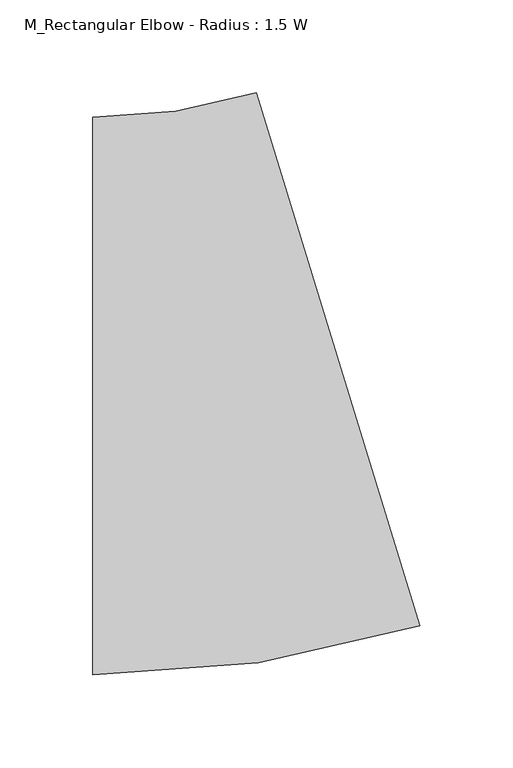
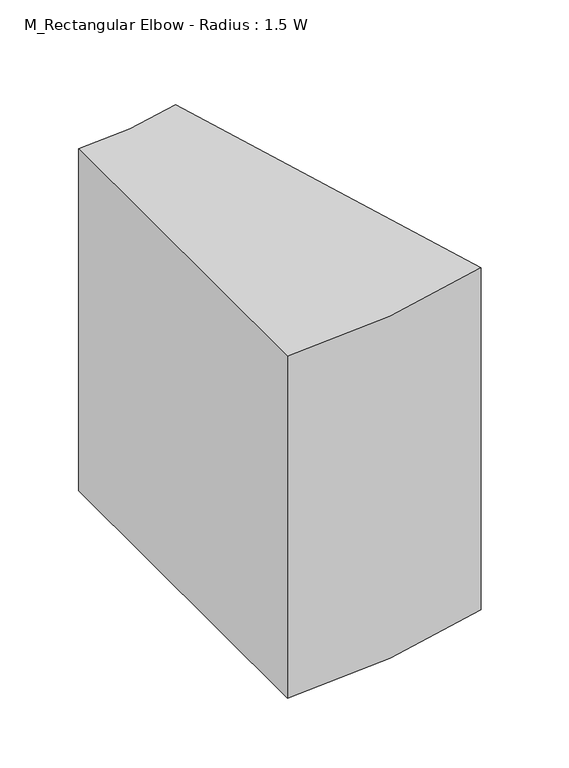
"""IFC4 building model written with IfcOpenShell, lengths in millimetres: duct fitting geometry, M_Rectangular Elbow - Radius : 1.5 W."""

import ifcopenshell
import ifcopenshell.guid

model = None  # the IFC model being written
_history = None  # IfcOwnerHistory: only IFC2X3 demands one
_inside = {}  # id of a spatial element -> (the spatial element, [elements in it])
_under = {}  # id of a project, library or spatial element -> (it, [spatial elements below it])
_declared = {}  # id of a project -> (the project, [libraries it declares])
_typed = {}  # id of a type object -> (the type object, [elements of that type])
_made_of = {}  # id of a material, layer set ... -> (it, [elements and type objects made of it])


def new_model(schema):
    """Start an empty IFC model of exactly this schema.

    Asked for "IFC4X3", IfcOpenShell would pick the latest addendum, in which some entities
    have other attributes; the version numbers below select the first issue.
    IFC2X3 requires an IfcOwnerHistory on every rooted entity: one is made here for all.
    """
    global model, _history
    if schema == "IFC4X3":
        model = ifcopenshell.file(schema_version=(4, 3, 0, 0))
    else:
        model = ifcopenshell.file(schema=schema)
    _inside.clear()
    _under.clear()
    _declared.clear()
    _typed.clear()
    _made_of.clear()
    _history = None
    if model.schema == "IFC2X3":
        org = make("IfcOrganization", Name="unknown")
        user = make(
            "IfcPersonAndOrganization",
            ThePerson=make("IfcPerson", FamilyName="unknown"),
            TheOrganization=org,
        )
        app = make(
            "IfcApplication",
            ApplicationDeveloper=org,
            Version="unknown",
            ApplicationFullName="unknown",
            ApplicationIdentifier="unknown",
        )
        _history = make(
            "IfcOwnerHistory",
            OwningUser=user,
            OwningApplication=app,
            ChangeAction="ADDED",
            CreationDate=0,
        )
    return model


def make(cls, **values):
    """One entity of the class cls with the attributes given. An attribute that is None is left unset."""
    return model.create_entity(
        cls, **{name: value for name, value in values.items() if value is not None}
    )


def rooted(cls, **values):
    """An entity with a GlobalId (a new one), such as an element, a storey or a relation."""
    return make(cls, GlobalId=ifcopenshell.guid.new(), OwnerHistory=_history, **values)


def si_unit(unit_type, name, prefix=None):
    """IfcSIUnit, for example si_unit("LENGTHUNIT", "METRE", prefix="MILLI")."""
    return make("IfcSIUnit", UnitType=unit_type, Prefix=prefix, Name=name)


def assignment(units):
    """IfcUnitAssignment: the units of a project."""
    return None if units is None else make("IfcUnitAssignment", Units=units)


def point(xyz):
    """IfcCartesianPoint."""
    return None if xyz is None else make("IfcCartesianPoint", Coordinates=xyz)


def direction(xyz):
    """IfcDirection."""
    return None if xyz is None else make("IfcDirection", DirectionRatios=xyz)


def frame(location, z_axis=None, x_axis=None):
    """IfcAxis2Placement3D, a coordinate frame: its origin and axes. An axis left out is left unset."""
    return make(
        "IfcAxis2Placement3D",
        Location=point(location),
        Axis=direction(z_axis),
        RefDirection=direction(x_axis),
    )


def frame_2d(location, x_axis=None):
    """IfcAxis2Placement2D, a coordinate frame in the plane: its origin and x axis."""
    return make(
        "IfcAxis2Placement2D", Location=point(location), RefDirection=direction(x_axis)
    )


def origin():
    """The frame at (0, 0, 0) with its axes left unset."""
    return frame((0.0, 0.0, 0.0))


def place(relative_to, where):
    """IfcLocalPlacement: puts the frame where relative to a parent placement (None: the world)."""
    return make(
        "IfcLocalPlacement", PlacementRelTo=relative_to, RelativePlacement=where
    )


def context(
    kind, dimensions, precision=None, world=None, true_north=None, identifier=None
):
    """IfcGeometricRepresentationContext, for example the 3D "Model" context."""
    return make(
        "IfcGeometricRepresentationContext",
        ContextIdentifier=identifier,
        ContextType=kind,
        CoordinateSpaceDimension=dimensions,
        Precision=precision,
        WorldCoordinateSystem=world,
        TrueNorth=true_north,
    )


def project(units=None, contexts=None):
    """IfcProject with its units and contexts."""
    return rooted(
        "IfcProject",
        Name="project",
        RepresentationContexts=contexts,
        UnitsInContext=assignment(units),
    )


def spatial(cls, under=None, at=None, **own):
    """A site, building, storey or space (cls), placed at a placement, below another one or the project."""
    s = rooted(cls, ObjectPlacement=at, **own)
    if under is not None:
        _under.setdefault(under.id(), (under, []))[1].append(s)
    return s


def polyline(points):
    """IfcPolyline through the points."""
    return make("IfcPolyline", Points=[point(p) for p in points])


def circle_curve(where, radius):
    """IfcCircle in the frame where."""
    return make("IfcCircle", Position=where, Radius=radius)


def trimmed(basis, trim1, trim2, sense, master):
    """IfcTrimmedCurve: the piece of a basis curve between two trims."""
    return make(
        "IfcTrimmedCurve",
        BasisCurve=basis,
        Trim1=trim1,
        Trim2=trim2,
        SenseAgreement=sense,
        MasterRepresentation=master,
    )


def segment(curve, same_sense, transition):
    """IfcCompositeCurveSegment."""
    return make(
        "IfcCompositeCurveSegment",
        Transition=transition,
        SameSense=same_sense,
        ParentCurve=curve,
    )


def composite_curve(segments, self_intersect=None):
    """IfcCompositeCurve: segments joined end to end."""
    return make("IfcCompositeCurve", Segments=segments, SelfIntersect=self_intersect)


def outline(outer, holes=None, kind="AREA"):
    """IfcArbitraryClosedProfileDef: a profile drawn as a closed curve; with holes, ...WithVoids."""
    if holes is None:
        return make("IfcArbitraryClosedProfileDef", ProfileType=kind, OuterCurve=outer)
    return make(
        "IfcArbitraryProfileDefWithVoids",
        ProfileType=kind,
        OuterCurve=outer,
        InnerCurves=holes,
    )


def extrude(swept, where, along, depth):
    """IfcExtrudedAreaSolid: the profile swept, set in the frame where, extruded along a direction by depth."""
    return make(
        "IfcExtrudedAreaSolid",
        SweptArea=swept,
        Position=where,
        ExtrudedDirection=direction(along),
        Depth=depth,
    )


def shape(context_of_items, identifier, shape_type, items):
    """IfcShapeRepresentation: the items that make up one representation, for example the "Body"."""
    return make(
        "IfcShapeRepresentation",
        ContextOfItems=context_of_items,
        RepresentationIdentifier=identifier,
        RepresentationType=shape_type,
        Items=items,
    )


def source(mapping_origin, context_of_items, identifier, shape_type, items):
    """IfcRepresentationMap: a shape defined once, which mapped items show again and again."""
    return make(
        "IfcRepresentationMap",
        MappingOrigin=mapping_origin,
        MappedRepresentation=shape(context_of_items, identifier, shape_type, items),
    )


def transform(
    local_origin,
    x_axis=None,
    y_axis=None,
    z_axis=None,
    scale=None,
    scale2=None,
    scale3=None,
    uniform=True,
):
    """IfcCartesianTransformationOperator3D, or its non-uniform kind. x_axis, y_axis, z_axis: its Axis1, 2, 3."""
    if uniform:
        return make(
            "IfcCartesianTransformationOperator3D",
            Axis1=direction(x_axis),
            Axis2=direction(y_axis),
            LocalOrigin=point(local_origin),
            Scale=scale,
            Axis3=direction(z_axis),
        )
    return make(
        "IfcCartesianTransformationOperator3DnonUniform",
        Axis1=direction(x_axis),
        Axis2=direction(y_axis),
        LocalOrigin=point(local_origin),
        Scale=scale,
        Axis3=direction(z_axis),
        Scale2=scale2,
        Scale3=scale3,
    )


def mapped(mapping_source, mapping_target):
    """IfcMappedItem: shows the shape of a source again, moved by a transform."""
    return make(
        "IfcMappedItem", MappingSource=mapping_source, MappingTarget=mapping_target
    )


def made_of(thing, what):
    """Note that an element or type object is made of a material, layer set ...; save() writes the relation."""
    if what is not None:
        _made_of.setdefault(what.id(), (what, []))[1].append(thing)
    return thing


def element(
    cls,
    number,
    at=None,
    inside=None,
    cuts=None,
    type_object=None,
    material=None,
    context=None,
    identifier="Body",
    shape_type=None,
    held_by="IfcProductDefinitionShape",
    body=None,
    shapes=None,
    **own,
):
    """One element of the class cls, such as IfcWall. Its Tag is "e" and its number.

    at: its placement. inside: the storey or other place that contains it. cuts: it is an
    opening in that element (IfcRelVoidsElement). A single representation is given by context,
    identifier, shape_type and body (its items); several are given by shapes. held_by: the class
    of the entity that holds the representations. save() writes the other relations.
    """
    e = rooted(cls, Tag="e%d" % number, ObjectPlacement=at, **own)
    if body is not None:
        shapes = [shape(context, identifier, shape_type, body)]
    if shapes is not None:
        e.Representation = make(held_by, Representations=shapes)
    if inside is not None:
        _inside.setdefault(inside.id(), (inside, []))[1].append(e)
    if cuts is not None:
        rooted(
            "IfcRelVoidsElement", RelatingBuildingElement=cuts, RelatedOpeningElement=e
        )
    if type_object is not None:
        _typed.setdefault(type_object.id(), (type_object, []))[1].append(e)
    return made_of(e, material)


def aggregate(whole, parts):
    """IfcRelAggregates: a whole, such as a stair, and the parts it consists of."""
    return rooted("IfcRelAggregates", RelatingObject=whole, RelatedObjects=parts)


def save(model, path):
    """Write the relations noted so far, then the file.

    IfcRelAggregates (storeys below a building ...), IfcRelContainedInSpatialStructure (elements
    in a storey), IfcRelDefinesByType, IfcRelAssociatesMaterial and IfcRelDeclares: one each for
    every whole, place, type object, material and project.
    """
    for whole, parts in _under.values():
        aggregate(whole, parts)
    for where, things in _inside.values():
        rooted(
            "IfcRelContainedInSpatialStructure",
            RelatedElements=things,
            RelatingStructure=where,
        )
    for kind, things in _typed.values():
        rooted("IfcRelDefinesByType", RelatedObjects=things, RelatingType=kind)
    for what, things in _made_of.values():
        rooted("IfcRelAssociatesMaterial", RelatedObjects=things, RelatingMaterial=what)
    for by, libraries in _declared.values():
        rooted("IfcRelDeclares", RelatingContext=by, RelatedDefinitions=libraries)
    model.write(path)


def m_rectangular_elbow_radius_1_5_w_1de02314(model_context):
    return source(origin(), model_context, "Body", "SweptSolid", [
        extrude(outline(composite_curve([segment(trimmed(circle_curve(frame_2d((-67.476817, 450.0)), 600.0), [point((108.5045015, -123.6118684))], [point((-67.476817, -150.0))], False, "CARTESIAN"), True, "CONTINUOUS"), segment(polyline([(-67.476817, -150.0), (-67.476817, 150.0)]), True, "CONTINUOUS"), segment(trimmed(circle_curve(frame_2d((-67.476817, 450.0)), 300.0), [point((-67.476817, 150.0))], [point((20.5138422, 163.1940658))], True, "CARTESIAN"), True, "CONTINUOUS"), segment(polyline([(20.5138422, 163.1940658), (108.5045015, -123.6118684)]), True, "CONTINUOUS")], self_intersect=False)), frame((0.0, 0.0, -150.0), z_axis=(0.0, 0.0, 1.0), x_axis=(1.0, 0.0, 0.0)), (0.0, 0.0, 1.0), 300.0),
        extrude(outline(composite_curve([segment(trimmed(circle_curve(frame_2d((-67.476817, 450.0)), 600.0), [point((108.5045015, -123.6118684))], [point((-67.476817, -150.0))], False, "CARTESIAN"), True, "CONTINUOUS"), segment(polyline([(-67.476817, -150.0), (-67.476817, 150.0)]), True, "CONTINUOUS"), segment(trimmed(circle_curve(frame_2d((-67.476817, 450.0)), 300.0), [point((-67.476817, 150.0))], [point((20.5138422, 163.1940658))], True, "CARTESIAN"), True, "CONTINUOUS"), segment(polyline([(20.5138422, 163.1940658), (108.5045015, -123.6118684)]), True, "CONTINUOUS")], self_intersect=False)), frame((0.0, 0.0, -150.0), z_axis=(0.0, 0.0, 1.0), x_axis=(1.0, 0.0, 0.0)), (0.0, 0.0, 1.0), 300.0),
        extrude(outline(composite_curve([segment(trimmed(circle_curve(frame_2d((-67.476817, 450.0)), 600.0), [point((108.5045015, -123.6118684))], [point((-67.476817, -150.0))], False, "CARTESIAN"), True, "CONTINUOUS"), segment(polyline([(-67.476817, -150.0), (-67.476817, 150.0)]), True, "CONTINUOUS"), segment(trimmed(circle_curve(frame_2d((-67.476817, 450.0)), 300.0), [point((-67.476817, 150.0))], [point((20.5138422, 163.1940658))], True, "CARTESIAN"), True, "CONTINUOUS"), segment(polyline([(20.5138422, 163.1940658), (108.5045015, -123.6118684)]), True, "CONTINUOUS")], self_intersect=False)), frame((0.0, 0.0, -150.0), z_axis=(0.0, 0.0, 1.0), x_axis=(1.0, 0.0, 0.0)), (0.0, 0.0, 1.0), 300.0),
    ])


if __name__ == "__main__":
    model = new_model("IFC4")
    model_context = context("Model", 3, world=origin())
    ifc_project = project(units=[si_unit("LENGTHUNIT", "METRE", prefix="MILLI")], contexts=[model_context])
    site = spatial("IfcSite", under=ifc_project)
    building = spatial("IfcBuilding", under=site)
    placement = place(None, origin())
    m_rectangular_elbow_radius_1_5_w_shape = m_rectangular_elbow_radius_1_5_w_1de02314(model_context)
    element("IfcDuctFitting", 1, ObjectType="M_Rectangular Elbow - Radius : 1.5 W", at=placement, inside=building, context=model_context, shape_type="MappedRepresentation", body=[
        mapped(m_rectangular_elbow_radius_1_5_w_shape, transform((0.0, 0.0, 0.0), x_axis=(1.0, 0.0, 0.0), y_axis=(0.0, 1.0, 0.0), z_axis=(0.0, 0.0, 1.0))),
    ])
    save(model, "model.ifc")
